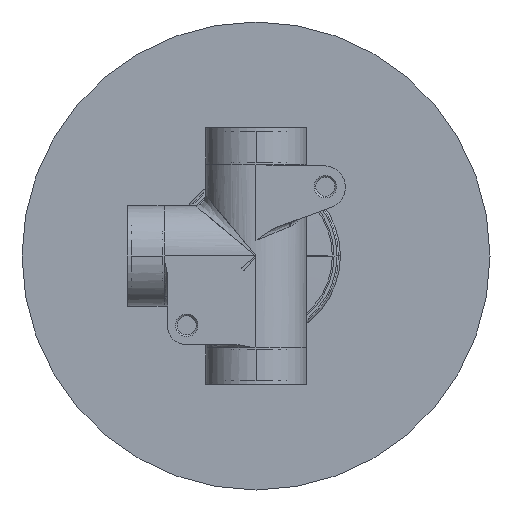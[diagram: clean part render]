
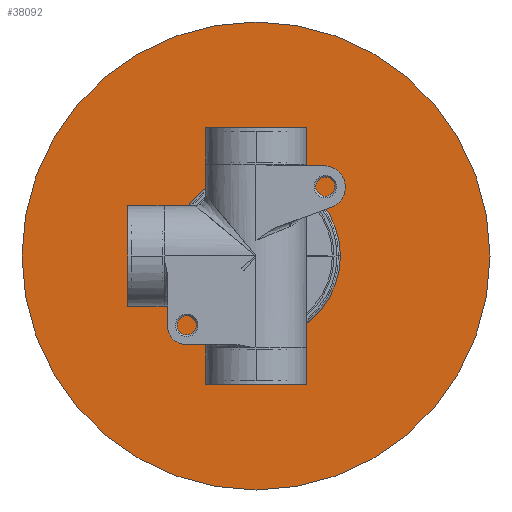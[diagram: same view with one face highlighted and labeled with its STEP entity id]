
A CAD part, left-side view. The second image highlights one B-rep face of the part: STEP entity #38092.
In plain terms, the highlighted planar face has unit normal (-1, 0, 0) as drawn and (0, 0, 1) by its records, which use the part's own axes.
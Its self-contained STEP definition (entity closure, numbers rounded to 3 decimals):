
#37788=CARTESIAN_POINT('',(0.,0.,0.));
#37789=DIRECTION('',(0.,0.,1.));
#37790=DIRECTION('',(1.,0.,0.));
#37791=AXIS2_PLACEMENT_3D('',#37788,#37789,#37790);
#37802=CARTESIAN_POINT('',(0.,0.,0.));
#37803=DIRECTION('',(0.,0.,-1.));
#37804=DIRECTION('',(1.,0.,0.));
#37805=AXIS2_PLACEMENT_3D('',#37802,#37803,#37804);
#37807=CARTESIAN_POINT('',(0.,0.,0.));
#37808=DIRECTION('',(0.,0.,-1.));
#37809=DIRECTION('',(1.,0.,0.));
#37810=AXIS2_PLACEMENT_3D('',#37807,#37808,#37809);
#37812=CARTESIAN_POINT('',(0.,0.,0.));
#37813=DIRECTION('',(0.,0.,1.));
#37814=DIRECTION('',(1.,0.,0.));
#37815=AXIS2_PLACEMENT_3D('',#37812,#37813,#37814);
#37935=CARTESIAN_POINT('',(24.35,0.,0.));
#37936=CARTESIAN_POINT('',(-24.35,0.,0.));
#37937=VERTEX_POINT('',#37935);
#37938=VERTEX_POINT('',#37936);
#37939=CARTESIAN_POINT('',(67.5,0.,0.));
#37940=CARTESIAN_POINT('',(-67.5,0.,0.));
#37941=VERTEX_POINT('',#37939);
#37942=VERTEX_POINT('',#37940);
#38077=CARTESIAN_POINT('',(0.,0.,0.));
#38078=DIRECTION('',(0.,0.,-1.));
#38079=DIRECTION('',(1.,0.,0.));
#38080=AXIS2_PLACEMENT_3D('',#38077,#38078,#38079);
#38081=PLANE('',#38080);
#38082=ORIENTED_EDGE('',*,*,#38057,.F.);
#38083=ORIENTED_EDGE('',*,*,#38071,.T.);
#38084=EDGE_LOOP('',(#38082,#38083));
#38085=FACE_OUTER_BOUND('',#38084,.F.);
#38087=ORIENTED_EDGE('',*,*,#38086,.F.);
#38089=ORIENTED_EDGE('',*,*,#38088,.T.);
#38090=EDGE_LOOP('',(#38087,#38089));
#38091=FACE_BOUND('',#38090,.F.);
#38092=ADVANCED_FACE('',(#38085,#38091),#38081,.F.);
#37792=CIRCLE('',#37791,67.5);
#37806=CIRCLE('',#37805,67.5);
#37811=CIRCLE('',#37810,24.35);
#37816=CIRCLE('',#37815,24.35);
#38057=EDGE_CURVE('',#37941,#37942,#37792,.T.);
#38071=EDGE_CURVE('',#37941,#37942,#37806,.T.);
#38086=EDGE_CURVE('',#37937,#37938,#37811,.T.);
#38088=EDGE_CURVE('',#37937,#37938,#37816,.T.);
